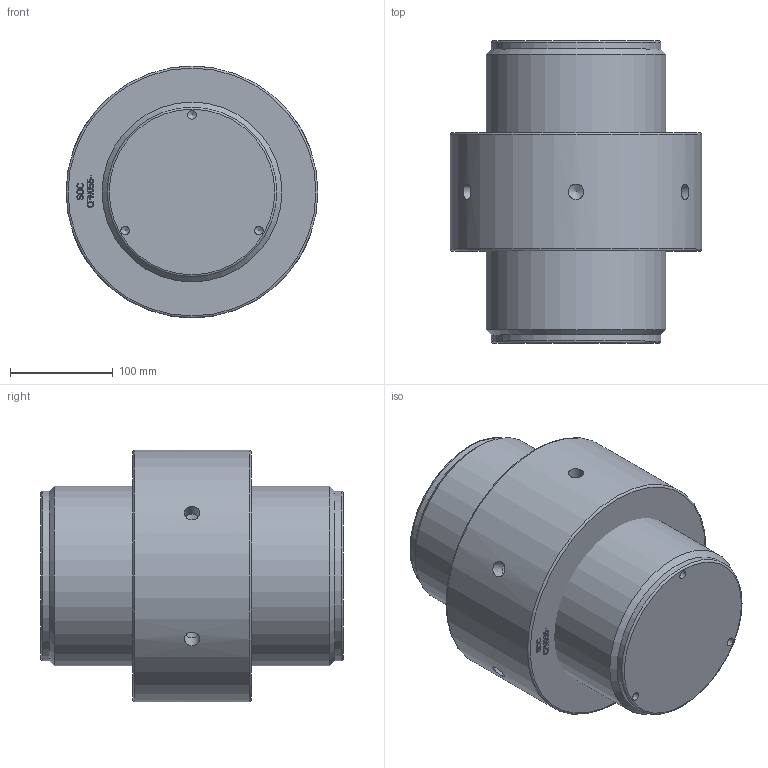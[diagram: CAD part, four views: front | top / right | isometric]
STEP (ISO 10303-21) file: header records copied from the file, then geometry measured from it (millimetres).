
FILE_DESCRIPTION(/* description */ (''),/* implementation_level */ '2;1');
FILE_NAME(/* name */ 'F:\Clienti LS\Redaelli\CYT\CYT\ARRNGEMENT\CYT056 61 061 0.stp',/* time_stamp */ '2021-05-09T08:47:03+02:00',/* author */ ('ranca'),/* organization */ (''),/* preprocessor_version */ 'ST-DEVELOPER v16.13',/* originating_system */ 'Autodesk Inventor 2018',/* authorisation */ '');
FILE_SCHEMA (('AUTOMOTIVE_DESIGN { 1 0 10303 214 3 1 1 }'));
Length unit declared in the file: millimetre
Products named in the file (3): CYT012-61-061-0; CYT012-61-061-0_1; CYT012-61-061-0_DADO
Assembly tree (2 placements, depth 2):
  CYT012-61-061-0
    CYT012-61-061-0_1
    CYT012-61-061-0_DADO
Bounding box: 245 x 294 x 245 mm (x, y, z)
Volume: 9848339.1 mm3; surface area: 409220.7 mm2
Topology: 2 solids, 2 shells, 362 faces, 992 edges, 660 vertices
Faces by surface type: bspline 212, plane 121, cylinder 14, cone 11, torus 4
Full cylindrical faces by diameter (mm): 8.376 x3, 15 x6, 165 x2, 168.505 x1, 175 x1, 245 x1
Entity records: 12526 total; most frequent: CARTESIAN_POINT 4924, ORIENTED_EDGE 1894, EDGE_CURVE 947, DIRECTION 847, VERTEX_POINT 644, LINE 485, VECTOR 485, B_SPLINE_CURVE_WITH_KNOTS 436
